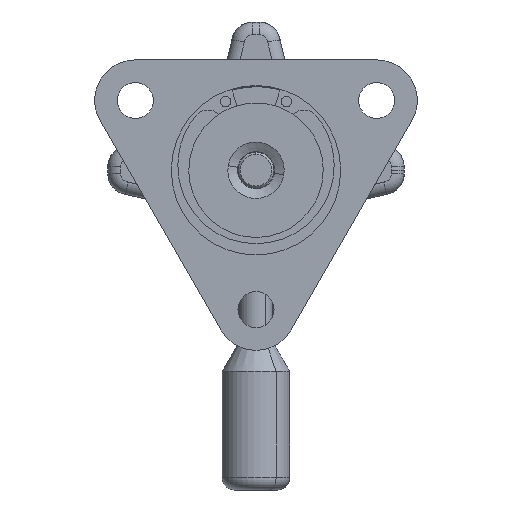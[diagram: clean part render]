
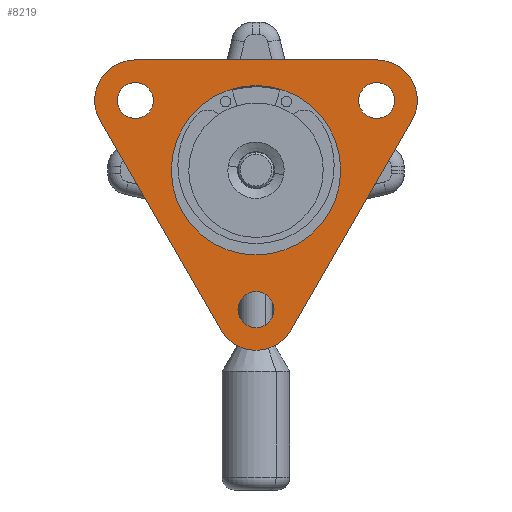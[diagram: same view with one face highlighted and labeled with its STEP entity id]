
A CAD part, front view. The second image highlights one B-rep face of the part: STEP entity #8219.
In plain terms, the highlighted planar face has unit normal (0, -1, 0).
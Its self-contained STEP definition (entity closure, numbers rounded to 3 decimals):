
#3442 = EDGE_LOOP ( 'NONE', ( #31319, #31323 ) ) ;
#3448 = EDGE_LOOP ( 'NONE', ( #31316, #31317 ) ) ;
#3450 = EDGE_LOOP ( 'NONE', ( #31310, #31314 ) ) ;
#3452 = EDGE_LOOP ( 'NONE', ( #31315, #31309, #31312, #31313, #31308, #31311, #31318 ) ) ;
#3454 = EDGE_LOOP ( 'NONE', ( #31320, #31322 ) ) ;
#8219 = ADVANCED_FACE ( 'NONE', ( #64227, #64222, #64230, #64232, #64226 ), #64218, .T. ) ;
#12032 = AXIS2_PLACEMENT_3D ( 'NONE', #64229, #64233, #64234 ) ;
#29907 = CARTESIAN_POINT ( 'NONE',  ( 28.5, 0., 26.054 ) ) ;
#29921 = CARTESIAN_POINT ( 'NONE',  ( 0., 0., -42.509 ) ) ;
#29934 = CARTESIAN_POINT ( 'NONE',  ( 0., 0., -37.159 ) ) ;
#29937 = CARTESIAN_POINT ( 'NONE',  ( -28.5, 0., 20.704 ) ) ;
#29941 = CARTESIAN_POINT ( 'NONE',  ( 28.5, 0., 12.204 ) ) ;
#29951 = CARTESIAN_POINT ( 'NONE',  ( 8.314, 0., -37.709 ) ) ;
#29974 = CARTESIAN_POINT ( 'NONE',  ( 0., 0., -28.659 ) ) ;
#29977 = CARTESIAN_POINT ( 'NONE',  ( -36.814, 0., 11.654 ) ) ;
#29978 = CARTESIAN_POINT ( 'NONE',  ( 36.814, 0., 11.654 ) ) ;
#29979 = CARTESIAN_POINT ( 'NONE',  ( 20., 0., 0. ) ) ;
#29981 = CARTESIAN_POINT ( 'NONE',  ( -20., 0., 0. ) ) ;
#29985 = CARTESIAN_POINT ( 'NONE',  ( -28.5, 0., 12.204 ) ) ;
#29987 = CARTESIAN_POINT ( 'NONE',  ( 28.5, 0., 20.704 ) ) ;
#30013 = CARTESIAN_POINT ( 'NONE',  ( -28.5, 0., 26.054 ) ) ;
#30017 = CARTESIAN_POINT ( 'NONE',  ( -8.314, 0., -37.709 ) ) ;
#31308 = ORIENTED_EDGE ( 'NONE', *, *, #70083, .F. ) ;
#31309 = ORIENTED_EDGE ( 'NONE', *, *, #70080, .F. ) ;
#31310 = ORIENTED_EDGE ( 'NONE', *, *, #70052, .T. ) ;
#31311 = ORIENTED_EDGE ( 'NONE', *, *, #70084, .F. ) ;
#31312 = ORIENTED_EDGE ( 'NONE', *, *, #70081, .F. ) ;
#31313 = ORIENTED_EDGE ( 'NONE', *, *, #70082, .F. ) ;
#31314 = ORIENTED_EDGE ( 'NONE', *, *, #70078, .T. ) ;
#31315 = ORIENTED_EDGE ( 'NONE', *, *, #70079, .F. ) ;
#31316 = ORIENTED_EDGE ( 'NONE', *, *, #70066, .T. ) ;
#31317 = ORIENTED_EDGE ( 'NONE', *, *, #70062, .T. ) ;
#31318 = ORIENTED_EDGE ( 'NONE', *, *, #70060, .F. ) ;
#31319 = ORIENTED_EDGE ( 'NONE', *, *, #70056, .T. ) ;
#31320 = ORIENTED_EDGE ( 'NONE', *, *, #70048, .T. ) ;
#31322 = ORIENTED_EDGE ( 'NONE', *, *, #70086, .T. ) ;
#31323 = ORIENTED_EDGE ( 'NONE', *, *, #70085, .T. ) ;
#50529 = CIRCLE ( 'NONE', #50533, 4.25 ) ;
#50533 = AXIS2_PLACEMENT_3D ( 'NONE', #59426, #59427, #59428 ) ;
#50542 = CIRCLE ( 'NONE', #50546, 4.25 ) ;
#50546 = AXIS2_PLACEMENT_3D ( 'NONE', #59438, #59439, #59440 ) ;
#50555 = CIRCLE ( 'NONE', #50559, 4.25 ) ;
#50559 = AXIS2_PLACEMENT_3D ( 'NONE', #59450, #59451, #59452 ) ;
#50564 = CIRCLE ( 'NONE', #50572, 9.6 ) ;
#50568 = CIRCLE ( 'NONE', #50579, 20. ) ;
#50572 = AXIS2_PLACEMENT_3D ( 'NONE', #59462, #59463, #59464 ) ;
#50579 = AXIS2_PLACEMENT_3D ( 'NONE', #59469, #59470, #59471 ) ;
#50581 = CIRCLE ( 'NONE', #50592, 20. ) ;
#50588 = VECTOR ( 'NONE', #59523, 1000. ) ;
#50592 = AXIS2_PLACEMENT_3D ( 'NONE', #59478, #59479, #59480 ) ;
#50631 = CIRCLE ( 'NONE', #50637, 4.25 ) ;
#50635 = CIRCLE ( 'NONE', #50642, 9.6 ) ;
#50637 = AXIS2_PLACEMENT_3D ( 'NONE', #59515, #59516, #59517 ) ;
#50640 = CIRCLE ( 'NONE', #50648, 9.6 ) ;
#50642 = AXIS2_PLACEMENT_3D ( 'NONE', #59519, #59520, #59521 ) ;
#50644 = VECTOR ( 'NONE', #59529, 1000. ) ;
#50646 = CIRCLE ( 'NONE', #50655, 9.6 ) ;
#50648 = AXIS2_PLACEMENT_3D ( 'NONE', #59525, #59526, #59527 ) ;
#50650 = VECTOR ( 'NONE', #59534, 1000. ) ;
#50655 = AXIS2_PLACEMENT_3D ( 'NONE', #59531, #59532, #59533 ) ;
#50657 = CIRCLE ( 'NONE', #50661, 4.25 ) ;
#50659 = CIRCLE ( 'NONE', #50666, 4.25 ) ;
#50661 = AXIS2_PLACEMENT_3D ( 'NONE', #59537, #59538, #59539 ) ;
#50666 = AXIS2_PLACEMENT_3D ( 'NONE', #59541, #59542, #59543 ) ;
#59426 = CARTESIAN_POINT ( 'NONE',  ( 28.5, 0., 16.454 ) ) ;
#59427 = DIRECTION ( 'NONE',  ( 0., 1., 0. ) ) ;
#59428 = DIRECTION ( 'NONE',  ( 0., 0., 1. ) ) ;
#59438 = CARTESIAN_POINT ( 'NONE',  ( -28.5, 0., 16.454 ) ) ;
#59439 = DIRECTION ( 'NONE',  ( 0., 1., 0. ) ) ;
#59440 = DIRECTION ( 'NONE',  ( 0., 0., 1. ) ) ;
#59450 = CARTESIAN_POINT ( 'NONE',  ( 0., 0., -32.909 ) ) ;
#59451 = DIRECTION ( 'NONE',  ( 0., 1., 0. ) ) ;
#59452 = DIRECTION ( 'NONE',  ( 0., 0., 1. ) ) ;
#59462 = CARTESIAN_POINT ( 'NONE',  ( 0., 0., -32.909 ) ) ;
#59463 = DIRECTION ( 'NONE',  ( 0., 1., 0. ) ) ;
#59464 = DIRECTION ( 'NONE',  ( 0., 0., -1. ) ) ;
#59469 = CARTESIAN_POINT ( 'NONE',  ( 0., 0., 0. ) ) ;
#59470 = DIRECTION ( 'NONE',  ( 0., 1., 0. ) ) ;
#59471 = DIRECTION ( 'NONE',  ( -1., 0., 0. ) ) ;
#59478 = CARTESIAN_POINT ( 'NONE',  ( 0., 0., 0. ) ) ;
#59479 = DIRECTION ( 'NONE',  ( 0., 1., 0. ) ) ;
#59480 = DIRECTION ( 'NONE',  ( -1., 0., 0. ) ) ;
#59514 = CARTESIAN_POINT ( 'NONE',  ( 8.314, 0., -37.709 ) ) ;
#59515 = CARTESIAN_POINT ( 'NONE',  ( -28.5, 0., 16.454 ) ) ;
#59516 = DIRECTION ( 'NONE',  ( 0., 1., 0. ) ) ;
#59517 = DIRECTION ( 'NONE',  ( 0., 0., 1. ) ) ;
#59518 = LINE ( 'NONE', #59514, #50588 ) ;
#59519 = CARTESIAN_POINT ( 'NONE',  ( 0., 0., -32.909 ) ) ;
#59520 = DIRECTION ( 'NONE',  ( 0., 1., 0. ) ) ;
#59521 = DIRECTION ( 'NONE',  ( 0., 0., -1. ) ) ;
#59522 = CARTESIAN_POINT ( 'NONE',  ( 28.5, 0., 26.054 ) ) ;
#59523 = DIRECTION ( 'NONE',  ( -0.5, 0., -0.866 ) ) ;
#59524 = LINE ( 'NONE', #59522, #50644 ) ;
#59525 = CARTESIAN_POINT ( 'NONE',  ( 28.5, 0., 16.454 ) ) ;
#59526 = DIRECTION ( 'NONE',  ( 0., 1., 0. ) ) ;
#59527 = DIRECTION ( 'NONE',  ( 0., 0., -1. ) ) ;
#59528 = CARTESIAN_POINT ( 'NONE',  ( -36.814, 0., 11.654 ) ) ;
#59529 = DIRECTION ( 'NONE',  ( 1., 0., 0. ) ) ;
#59530 = LINE ( 'NONE', #59528, #50650 ) ;
#59531 = CARTESIAN_POINT ( 'NONE',  ( -28.5, 0., 16.454 ) ) ;
#59532 = DIRECTION ( 'NONE',  ( 0., 1., 0. ) ) ;
#59533 = DIRECTION ( 'NONE',  ( 0., 0., 1. ) ) ;
#59534 = DIRECTION ( 'NONE',  ( -0.5, 0., 0.866 ) ) ;
#59537 = CARTESIAN_POINT ( 'NONE',  ( 0., 0., -32.909 ) ) ;
#59538 = DIRECTION ( 'NONE',  ( 0., 1., 0. ) ) ;
#59539 = DIRECTION ( 'NONE',  ( 0., 0., 1. ) ) ;
#59541 = CARTESIAN_POINT ( 'NONE',  ( 28.5, 0., 16.454 ) ) ;
#59542 = DIRECTION ( 'NONE',  ( 0., 1., 0. ) ) ;
#59543 = DIRECTION ( 'NONE',  ( 0., 0., 1. ) ) ;
#60632 = VERTEX_POINT ( 'NONE', #29907 ) ;
#60664 = VERTEX_POINT ( 'NONE', #29921 ) ;
#60690 = VERTEX_POINT ( 'NONE', #29934 ) ;
#60696 = VERTEX_POINT ( 'NONE', #29937 ) ;
#60704 = VERTEX_POINT ( 'NONE', #29941 ) ;
#60724 = VERTEX_POINT ( 'NONE', #29951 ) ;
#60770 = VERTEX_POINT ( 'NONE', #29974 ) ;
#60776 = VERTEX_POINT ( 'NONE', #29977 ) ;
#60778 = VERTEX_POINT ( 'NONE', #29978 ) ;
#60780 = VERTEX_POINT ( 'NONE', #29979 ) ;
#60784 = VERTEX_POINT ( 'NONE', #29981 ) ;
#60792 = VERTEX_POINT ( 'NONE', #29985 ) ;
#60796 = VERTEX_POINT ( 'NONE', #29987 ) ;
#60848 = VERTEX_POINT ( 'NONE', #30013 ) ;
#60856 = VERTEX_POINT ( 'NONE', #30017 ) ;
#64218 = PLANE ( 'NONE',  #12032 ) ;
#64222 = FACE_BOUND ( 'NONE', #3450, .T. ) ;
#64226 = FACE_BOUND ( 'NONE', #3454, .T. ) ;
#64227 = FACE_BOUND ( 'NONE', #3448, .T. ) ;
#64229 = CARTESIAN_POINT ( 'NONE',  ( 0., 0., -32.909 ) ) ;
#64230 = FACE_OUTER_BOUND ( 'NONE', #3452, .T. ) ;
#64232 = FACE_BOUND ( 'NONE', #3442, .T. ) ;
#64233 = DIRECTION ( 'NONE',  ( 0., -1., 0. ) ) ;
#64234 = DIRECTION ( 'NONE',  ( 0., 0., -1. ) ) ;
#70048 = EDGE_CURVE ( 'NONE', #60704, #60796, #50529, .T. ) ;
#70052 = EDGE_CURVE ( 'NONE', #60792, #60696, #50542, .T. ) ;
#70056 = EDGE_CURVE ( 'NONE', #60690, #60770, #50555, .T. ) ;
#70060 = EDGE_CURVE ( 'NONE', #60664, #60856, #50564, .T. ) ;
#70062 = EDGE_CURVE ( 'NONE', #60780, #60784, #50568, .T. ) ;
#70066 = EDGE_CURVE ( 'NONE', #60784, #60780, #50581, .T. ) ;
#70078 = EDGE_CURVE ( 'NONE', #60696, #60792, #50631, .T. ) ;
#70079 = EDGE_CURVE ( 'NONE', #60724, #60664, #50635, .T. ) ;
#70080 = EDGE_CURVE ( 'NONE', #60778, #60724, #59518, .T. ) ;
#70081 = EDGE_CURVE ( 'NONE', #60632, #60778, #50640, .T. ) ;
#70082 = EDGE_CURVE ( 'NONE', #60848, #60632, #59524, .T. ) ;
#70083 = EDGE_CURVE ( 'NONE', #60776, #60848, #50646, .T. ) ;
#70084 = EDGE_CURVE ( 'NONE', #60856, #60776, #59530, .T. ) ;
#70085 = EDGE_CURVE ( 'NONE', #60770, #60690, #50657, .T. ) ;
#70086 = EDGE_CURVE ( 'NONE', #60796, #60704, #50659, .T. ) ;
